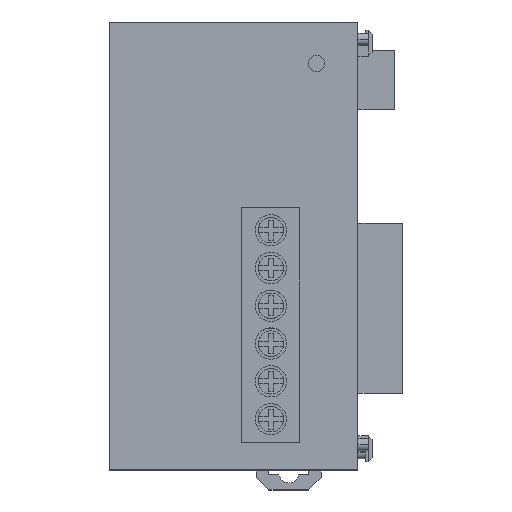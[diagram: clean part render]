
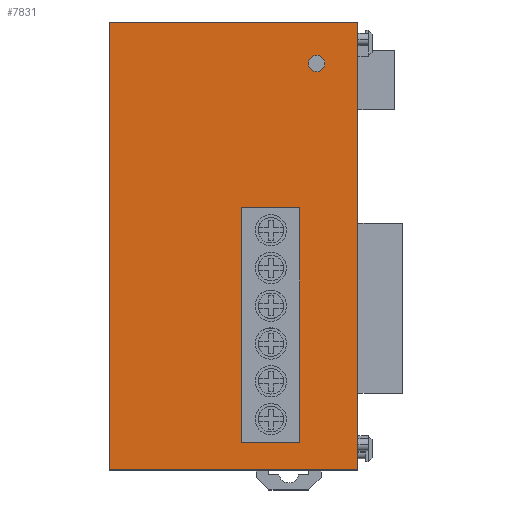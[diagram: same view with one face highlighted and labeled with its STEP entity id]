
A CAD part, top view. The second image highlights one B-rep face of the part: STEP entity #7831.
In plain terms, the highlighted planar face has unit normal (0, 0, 1).
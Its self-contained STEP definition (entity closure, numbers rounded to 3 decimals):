
#7645 = VERTEX_POINT ( 'NONE', #16000 ) ;
#7646 = VERTEX_POINT ( 'NONE', #15984 ) ;
#7650 = EDGE_CURVE ( 'NONE', #7646, #7645, #15983, .T. ) ;
#7814 = EDGE_CURVE ( 'NONE', #7645, #7646, #17500, .T. ) ;
#7815 = ORIENTED_EDGE ( 'NONE', *, *, #7834, .T. ) ;
#7820 = ORIENTED_EDGE ( 'NONE', *, *, #7814, .F. ) ;
#7828 = VERTEX_POINT ( 'NONE', #17682 ) ;
#7829 = EDGE_LOOP ( 'NONE', ( #7815, #7838, #8050, #7833 ) ) ;
#7831 = ADVANCED_FACE ( 'NONE', ( #17681, #17677, #17484 ), #17671, .T. ) ;
#7832 = ORIENTED_EDGE ( 'NONE', *, *, #7650, .F. ) ;
#7833 = ORIENTED_EDGE ( 'NONE', *, *, #8051, .T. ) ;
#7834 = EDGE_CURVE ( 'NONE', #7828, #8075, #17666, .T. ) ;
#7835 = EDGE_CURVE ( 'NONE', #8075, #7858, #17661, .T. ) ;
#7836 = VERTEX_POINT ( 'NONE', #17667 ) ;
#7838 = ORIENTED_EDGE ( 'NONE', *, *, #7835, .T. ) ;
#7839 = EDGE_CURVE ( 'NONE', #7858, #7836, #17652, .T. ) ;
#7858 = VERTEX_POINT ( 'NONE', #17634 ) ;
#7859 = EDGE_LOOP ( 'NONE', ( #7820, #7832 ) ) ;
#7983 = EDGE_CURVE ( 'NONE', #8053, #8061, #16463, .T. ) ;
#7985 = ORIENTED_EDGE ( 'NONE', *, *, #7983, .F. ) ;
#8049 = EDGE_LOOP ( 'NONE', ( #8054, #8057, #8066, #7985 ) ) ;
#8050 = ORIENTED_EDGE ( 'NONE', *, *, #7839, .T. ) ;
#8051 = EDGE_CURVE ( 'NONE', #7836, #7828, #16673, .T. ) ;
#8052 = EDGE_CURVE ( 'NONE', #8056, #8053, #16679, .T. ) ;
#8053 = VERTEX_POINT ( 'NONE', #16599 ) ;
#8054 = ORIENTED_EDGE ( 'NONE', *, *, #8052, .F. ) ;
#8055 = VERTEX_POINT ( 'NONE', #16603 ) ;
#8056 = VERTEX_POINT ( 'NONE', #16600 ) ;
#8057 = ORIENTED_EDGE ( 'NONE', *, *, #8058, .F. ) ;
#8058 = EDGE_CURVE ( 'NONE', #8055, #8056, #16595, .T. ) ;
#8061 = VERTEX_POINT ( 'NONE', #16592 ) ;
#8062 = EDGE_CURVE ( 'NONE', #8061, #8055, #16593, .T. ) ;
#8066 = ORIENTED_EDGE ( 'NONE', *, *, #8062, .F. ) ;
#8075 = VERTEX_POINT ( 'NONE', #16754 ) ;
#15979 = AXIS2_PLACEMENT_3D ( 'NONE', #16123, #16122, #16121 ) ;
#15983 = CIRCLE ( 'NONE', #15979, 1.65 ) ;
#15984 = CARTESIAN_POINT ( 'NONE',  ( 15.05, 36.65, 80. ) ) ;
#16000 = CARTESIAN_POINT ( 'NONE',  ( 18.35, 36.65, 80. ) ) ;
#16121 = DIRECTION ( 'NONE',  ( 1., 0., 0. ) ) ;
#16122 = DIRECTION ( 'NONE',  ( 0., 0., 1. ) ) ;
#16123 = CARTESIAN_POINT ( 'NONE',  ( 16.7, 36.65, 80. ) ) ;
#16453 = DIRECTION ( 'NONE',  ( 0., 1., 0. ) ) ;
#16454 = VECTOR ( 'NONE', #16453, 1000. ) ;
#16455 = CARTESIAN_POINT ( 'NONE',  ( 13.35, 7.6, 80. ) ) ;
#16463 = LINE ( 'NONE', #16455, #16454 ) ;
#16584 = DIRECTION ( 'NONE',  ( -1., 0., 0. ) ) ;
#16585 = VECTOR ( 'NONE', #16584, 1000. ) ;
#16586 = CARTESIAN_POINT ( 'NONE',  ( 1.65, 7.6, 80. ) ) ;
#16590 = DIRECTION ( 'NONE',  ( 0., -1., 0. ) ) ;
#16591 = VECTOR ( 'NONE', #16590, 1000. ) ;
#16592 = CARTESIAN_POINT ( 'NONE',  ( 13.35, 7.6, 80. ) ) ;
#16593 = LINE ( 'NONE', #16586, #16585 ) ;
#16594 = CARTESIAN_POINT ( 'NONE',  ( 1.65, 7.6, 80. ) ) ;
#16595 = LINE ( 'NONE', #16594, #16591 ) ;
#16596 = DIRECTION ( 'NONE',  ( 1., 0., 0. ) ) ;
#16597 = VECTOR ( 'NONE', #16596, 1000. ) ;
#16598 = CARTESIAN_POINT ( 'NONE',  ( 1.65, -39.6, 80. ) ) ;
#16599 = CARTESIAN_POINT ( 'NONE',  ( 13.35, -39.6, 80. ) ) ;
#16600 = CARTESIAN_POINT ( 'NONE',  ( 1.65, -39.6, 80. ) ) ;
#16601 = DIRECTION ( 'NONE',  ( -1., 0., 0. ) ) ;
#16602 = VECTOR ( 'NONE', #16601, 1000. ) ;
#16603 = CARTESIAN_POINT ( 'NONE',  ( 1.65, 7.6, 80. ) ) ;
#16672 = CARTESIAN_POINT ( 'NONE',  ( 25., 45., 80. ) ) ;
#16673 = LINE ( 'NONE', #16672, #16602 ) ;
#16679 = LINE ( 'NONE', #16598, #16597 ) ;
#16754 = CARTESIAN_POINT ( 'NONE',  ( -25., -45., 80. ) ) ;
#17478 = DIRECTION ( 'NONE',  ( 1., 0., 0. ) ) ;
#17479 = DIRECTION ( 'NONE',  ( 0., 0., 1. ) ) ;
#17480 = CARTESIAN_POINT ( 'NONE',  ( -25., 45., 80. ) ) ;
#17484 = FACE_BOUND ( 'NONE', #8049, .T. ) ;
#17490 = CARTESIAN_POINT ( 'NONE',  ( 16.7, 36.65, 80. ) ) ;
#17495 = AXIS2_PLACEMENT_3D ( 'NONE', #17490, #17479, #17478 ) ;
#17500 = CIRCLE ( 'NONE', #17495, 1.65 ) ;
#17634 = CARTESIAN_POINT ( 'NONE',  ( 25., -45., 80. ) ) ;
#17649 = DIRECTION ( 'NONE',  ( 0., 1., 0. ) ) ;
#17650 = VECTOR ( 'NONE', #17649, 1000. ) ;
#17651 = CARTESIAN_POINT ( 'NONE',  ( 25., -45., 80. ) ) ;
#17652 = LINE ( 'NONE', #17651, #17650 ) ;
#17658 = DIRECTION ( 'NONE',  ( 1., 0., 0. ) ) ;
#17659 = VECTOR ( 'NONE', #17658, 1000. ) ;
#17660 = CARTESIAN_POINT ( 'NONE',  ( 25., -45., 80. ) ) ;
#17661 = LINE ( 'NONE', #17660, #17659 ) ;
#17663 = DIRECTION ( 'NONE',  ( 0., -1., 0. ) ) ;
#17664 = VECTOR ( 'NONE', #17663, 1000. ) ;
#17665 = CARTESIAN_POINT ( 'NONE',  ( -25., -45., 80. ) ) ;
#17666 = LINE ( 'NONE', #17665, #17664 ) ;
#17667 = CARTESIAN_POINT ( 'NONE',  ( 25., 45., 80. ) ) ;
#17668 = DIRECTION ( 'NONE',  ( 1., 0., 0. ) ) ;
#17669 = DIRECTION ( 'NONE',  ( 0., 0., 1. ) ) ;
#17671 = PLANE ( 'NONE',  #17684 ) ;
#17677 = FACE_OUTER_BOUND ( 'NONE', #7829, .T. ) ;
#17681 = FACE_BOUND ( 'NONE', #7859, .T. ) ;
#17682 = CARTESIAN_POINT ( 'NONE',  ( -25., 45., 80. ) ) ;
#17684 = AXIS2_PLACEMENT_3D ( 'NONE', #17480, #17669, #17668 ) ;
